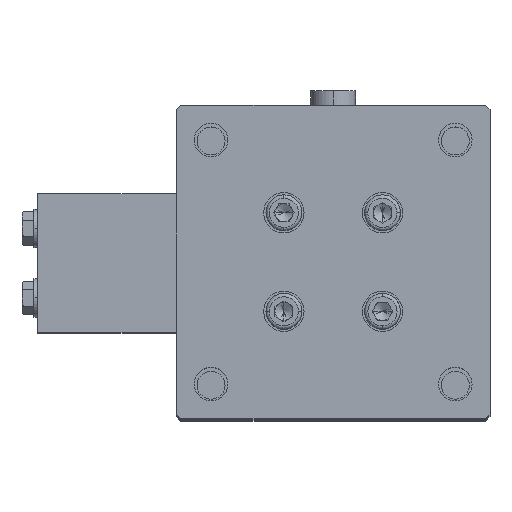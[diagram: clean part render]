
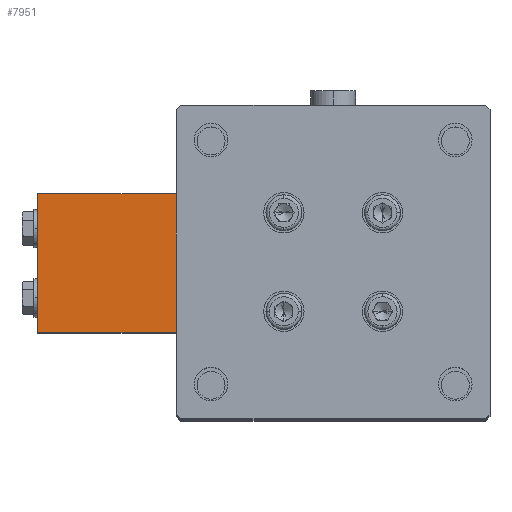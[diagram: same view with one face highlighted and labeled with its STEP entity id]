
A CAD part, top view. The second image highlights one B-rep face of the part: STEP entity #7951.
In plain terms, the highlighted planar face has unit normal (0, 0, 1).
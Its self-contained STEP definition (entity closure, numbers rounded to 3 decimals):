
#198 = DIRECTION ( 'NONE',  ( -1., 0., 0. ) ) ;
#757 = CARTESIAN_POINT ( 'NONE',  ( -70., 31., -262.4 ) ) ;
#1367 = VECTOR ( 'NONE', #1470, 1000. ) ;
#1470 = DIRECTION ( 'NONE',  ( 1., 0., 0. ) ) ;
#2891 = EDGE_CURVE ( 'NONE', #8945, #6620, #10157, .T. ) ;
#2977 = EDGE_LOOP ( 'NONE', ( #7149, #6745, #10516, #11761 ) ) ;
#3049 = CARTESIAN_POINT ( 'NONE',  ( -70., 0., -262.4 ) ) ;
#3942 = CARTESIAN_POINT ( 'NONE',  ( -101., -31., -262.4 ) ) ;
#4694 = VERTEX_POINT ( 'NONE', #6455 ) ;
#4864 = FACE_OUTER_BOUND ( 'NONE', #2977, .T. ) ;
#5001 = EDGE_CURVE ( 'NONE', #6620, #5449, #6413, .T. ) ;
#5030 = CARTESIAN_POINT ( 'NONE',  ( -132., 31., -262.4 ) ) ;
#5063 = PLANE ( 'NONE',  #5540 ) ;
#5449 = VERTEX_POINT ( 'NONE', #5648 ) ;
#5540 = AXIS2_PLACEMENT_3D ( 'NONE', #11727, #6036, #198 ) ;
#5648 = CARTESIAN_POINT ( 'NONE',  ( -132., -31., -262.4 ) ) ;
#6036 = DIRECTION ( 'NONE',  ( 0., 0., -1. ) ) ;
#6413 = LINE ( 'NONE', #7184, #8660 ) ;
#6436 = EDGE_CURVE ( 'NONE', #5449, #4694, #8776, .T. ) ;
#6455 = CARTESIAN_POINT ( 'NONE',  ( -70., -31., -262.4 ) ) ;
#6620 = VERTEX_POINT ( 'NONE', #5030 ) ;
#6745 = ORIENTED_EDGE ( 'NONE', *, *, #5001, .T. ) ;
#6943 = DIRECTION ( 'NONE',  ( 0., -1., 0. ) ) ;
#7149 = ORIENTED_EDGE ( 'NONE', *, *, #2891, .T. ) ;
#7184 = CARTESIAN_POINT ( 'NONE',  ( -132., 0., -262.4 ) ) ;
#7890 = EDGE_CURVE ( 'NONE', #4694, #8945, #8596, .T. ) ;
#7951 = ADVANCED_FACE ( 'NONE', ( #4864 ), #5063, .F. ) ;
#8298 = VECTOR ( 'NONE', #11640, 1000. ) ;
#8596 = LINE ( 'NONE', #3049, #8298 ) ;
#8660 = VECTOR ( 'NONE', #6943, 1000. ) ;
#8776 = LINE ( 'NONE', #3942, #1367 ) ;
#8945 = VERTEX_POINT ( 'NONE', #757 ) ;
#8974 = VECTOR ( 'NONE', #10719, 1000. ) ;
#10157 = LINE ( 'NONE', #10746, #8974 ) ;
#10516 = ORIENTED_EDGE ( 'NONE', *, *, #6436, .T. ) ;
#10719 = DIRECTION ( 'NONE',  ( -1., 0., 0. ) ) ;
#10746 = CARTESIAN_POINT ( 'NONE',  ( -101., 31., -262.4 ) ) ;
#11640 = DIRECTION ( 'NONE',  ( 0., 1., 0. ) ) ;
#11727 = CARTESIAN_POINT ( 'NONE',  ( -70., -31., -262.4 ) ) ;
#11761 = ORIENTED_EDGE ( 'NONE', *, *, #7890, .T. ) ;
